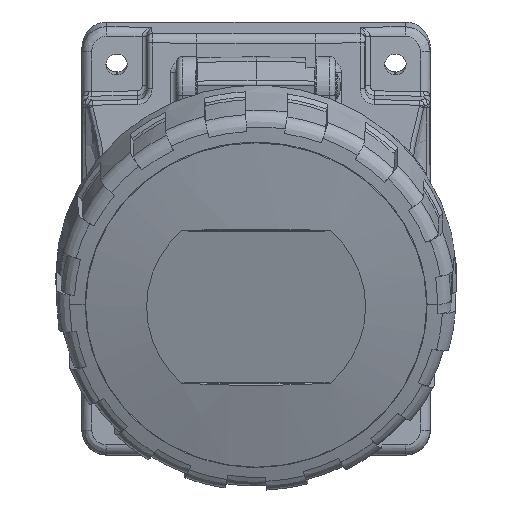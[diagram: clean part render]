
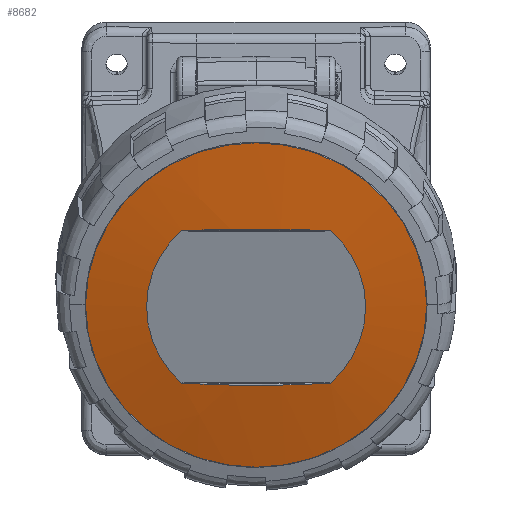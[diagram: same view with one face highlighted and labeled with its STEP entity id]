
A CAD part, front view. The second image highlights one B-rep face of the part: STEP entity #8682.
In plain terms, the highlighted spherical face has radius 291.997 mm.
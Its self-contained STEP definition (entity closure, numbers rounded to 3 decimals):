
#619=SPHERICAL_SURFACE('',#99412,291.997);
#3145=FACE_BOUND('',#21887,.T.);
#3146=FACE_BOUND('',#21888,.T.);
#8682=ADVANCED_FACE('',(#3145,#3146),#619,.T.);
#21887=EDGE_LOOP('',(#54675));
#21888=EDGE_LOOP('',(#54676,#54677,#54678,#54679));
#54675=ORIENTED_EDGE('',*,*,#85766,.T.);
#54676=ORIENTED_EDGE('',*,*,#85767,.F.);
#54677=ORIENTED_EDGE('',*,*,#85768,.F.);
#54678=ORIENTED_EDGE('',*,*,#85769,.F.);
#54679=ORIENTED_EDGE('',*,*,#85770,.F.);
#74424=VERTEX_POINT('',#231076);
#74425=VERTEX_POINT('',#231078);
#74426=VERTEX_POINT('',#231079);
#74427=VERTEX_POINT('',#231081);
#74428=VERTEX_POINT('',#231083);
#85766=EDGE_CURVE('',#74424,#74424,#94967,.T.);
#85767=EDGE_CURVE('',#74425,#74426,#94968,.T.);
#85768=EDGE_CURVE('',#74427,#74425,#94969,.T.);
#85769=EDGE_CURVE('',#74428,#74427,#94970,.T.);
#85770=EDGE_CURVE('',#74426,#74428,#94971,.T.);
#94967=CIRCLE('',#99407,34.266);
#94968=CIRCLE('',#99408,233.91);
#94969=CIRCLE('',#99409,22.001);
#94970=CIRCLE('',#99410,233.909);
#94971=CIRCLE('',#99411,22.001);
#99407=AXIS2_PLACEMENT_3D('',#231075,#111962,#111963);
#99408=AXIS2_PLACEMENT_3D('',#231077,#111964,#111965);
#99409=AXIS2_PLACEMENT_3D('',#231080,#111966,#111967);
#99410=AXIS2_PLACEMENT_3D('',#231082,#111968,#111969);
#99411=AXIS2_PLACEMENT_3D('',#231084,#111970,#111971);
#99412=AXIS2_PLACEMENT_3D('',#231085,#111972,#111973);
#111962=DIRECTION('',(0.,-0.951,-0.309));
#111963=DIRECTION('',(0.,-0.309,0.951));
#111964=DIRECTION('',(0.,-0.848,0.53));
#111965=DIRECTION('',(0.,-0.53,-0.848));
#111966=DIRECTION('',(0.,-0.951,-0.309));
#111967=DIRECTION('',(0.,-0.309,0.951));
#111968=DIRECTION('',(0.,-0.375,-0.927));
#111969=DIRECTION('',(0.,0.927,-0.375));
#111970=DIRECTION('',(0.,-0.951,-0.309));
#111971=DIRECTION('',(0.,-0.309,0.951));
#111972=DIRECTION('',(1.,0.,0.));
#111973=DIRECTION('',(0.,-0.309,0.951));
#231075=CARTESIAN_POINT('',(0.006,93.15,29.858));
#231076=CARTESIAN_POINT('',(0.006,82.561,62.447));
#231077=CARTESIAN_POINT('',(0.006,220.714,212.087));
#231078=CARTESIAN_POINT('',(-14.927,97.013,14.125));
#231079=CARTESIAN_POINT('',(14.939,97.013,14.125));
#231080=CARTESIAN_POINT('',(0.006,92.021,29.491));
#231081=CARTESIAN_POINT('',(-14.927,87.028,44.858));
#231082=CARTESIAN_POINT('',(0.006,303.462,-42.588));
#231083=CARTESIAN_POINT('',(14.939,87.028,44.858));
#231084=CARTESIAN_POINT('',(0.006,92.021,29.491));
#231085=CARTESIAN_POINT('',(0.006,368.937,119.467));
